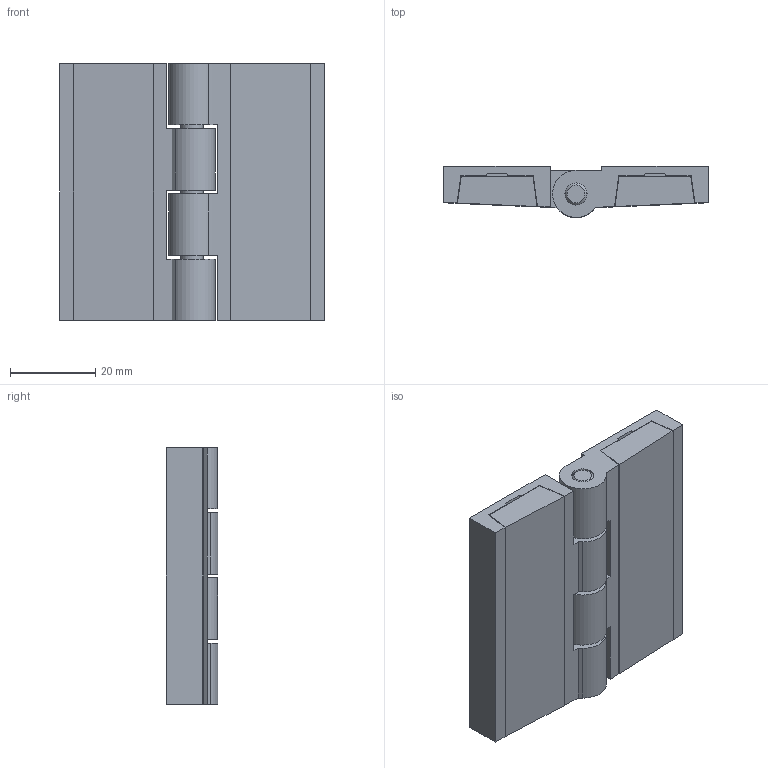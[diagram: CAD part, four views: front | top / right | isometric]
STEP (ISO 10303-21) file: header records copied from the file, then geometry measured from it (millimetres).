
FILE_DESCRIPTION (( 'STEP AP203' ), '1' );
FILE_NAME ('XG02-005-4.stp', '2023-12-06T02:13:11', ( '' ), ( '' ), 'SwSTEP 2.0', 'SolidWorks 2020', '' );
FILE_SCHEMA (( 'CONFIG_CONTROL_DESIGN' ));
Products named in the file (1): XG02-005-4
Bounding box: 62 x 11.99 x 60 mm (x, y, z)
Volume: 21009.9 mm3; surface area: 20734.4 mm2
Topology: 5 solids, 5 shells, 3570 faces, 7820 edges, 5212 vertices
Faces by surface type: plane 2652, cylinder 914, cone 4
Entity records: 97633 total; most frequent: DIRECTION 16818, CARTESIAN_POINT 16603, ORIENTED_EDGE 15640, EDGE_CURVE 7820, VECTOR 5964, LINE 5964, AXIS2_PLACEMENT_3D 5427, VERTEX_POINT 5212
